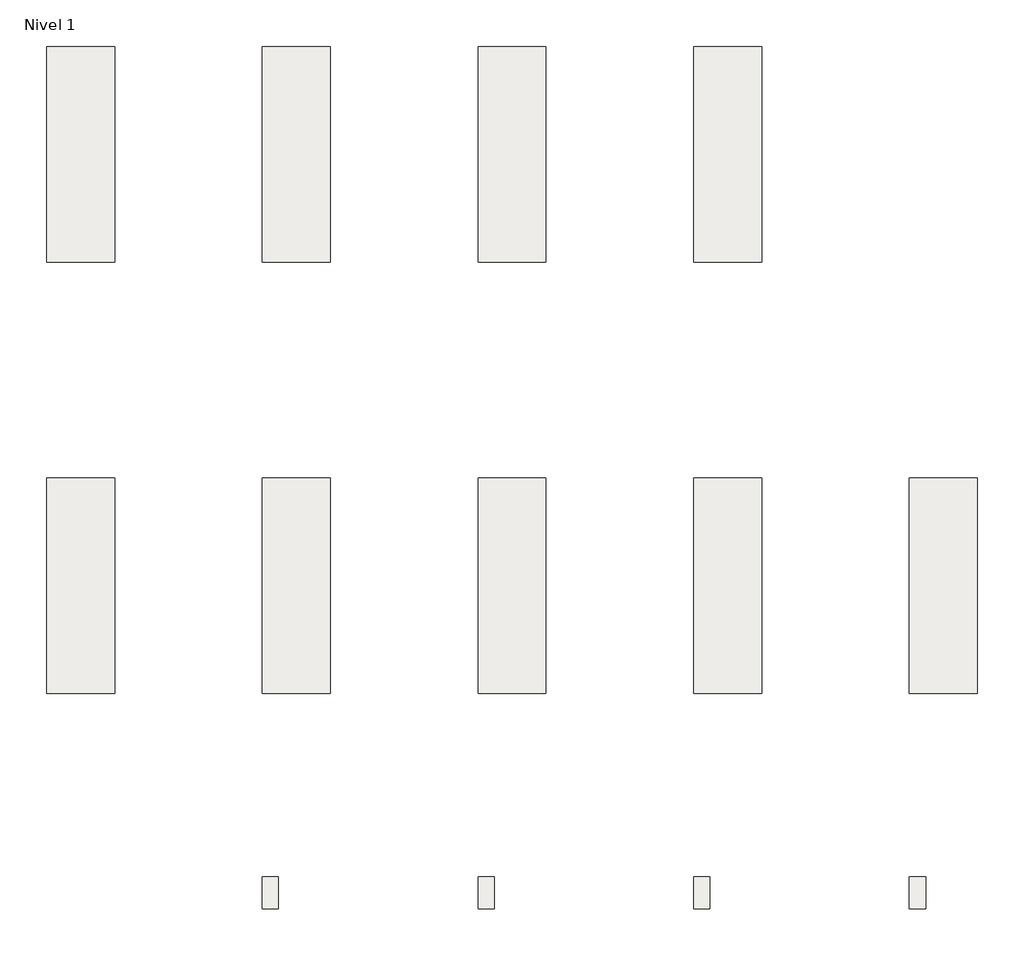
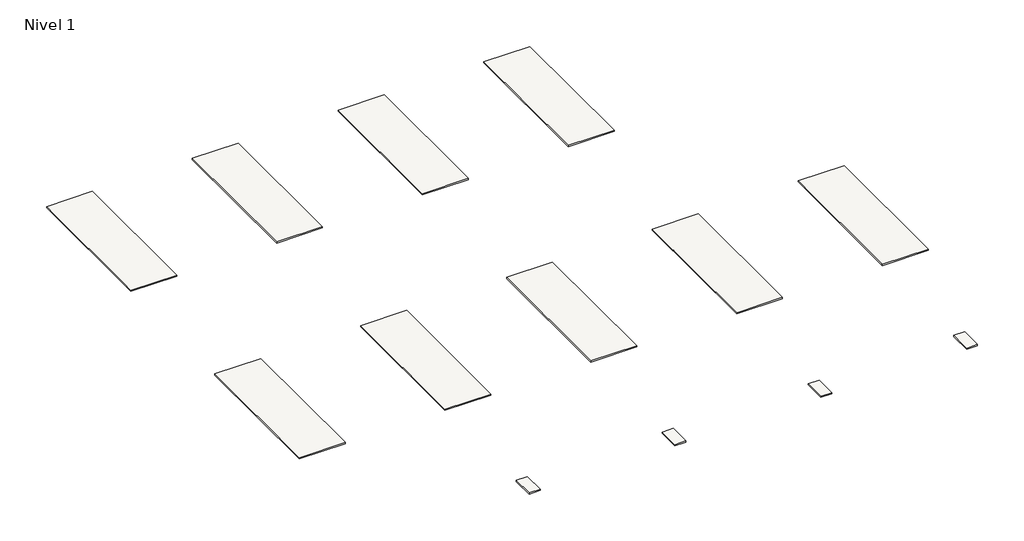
# One storey: 13 slabs.
"""IFC4 building model written with IfcOpenShell, lengths in millimetres."""

from ifc_helpers import new_model, si_unit, frame, origin, place, context, project, spatial, polyline, outline, extrude, element, save

model = new_model("IFC4")

# Units and contexts
model_context = context("Model", 3, world=origin())
ifc_project = project(units=[si_unit("LENGTHUNIT", "METRE", prefix="MILLI")], contexts=[model_context])

# Site, building, storey
site = spatial("IfcSite", under=ifc_project)
building = spatial("IfcBuilding", under=site)
storey = spatial("IfcBuildingStorey", under=building, Name="Nivel 1", Elevation=0.0)

# Slabs
placement = place(None, origin())
element("IfcSlab", 1, ObjectType="Vetro Moka Rec.", at=placement, inside=storey, context=model_context, shape_type="SweptSolid", body=[
    extrude(outline(polyline([(0.0, 1000.0), (315.0, 1000.0), (315.0, 0.0), (0.0, 0.0), (0.0, 1000.0)])), frame((0.0, 0.0, -8.7), z_axis=(0.0, 0.0, 1.0), x_axis=(1.0, 0.0, 0.0)), (0.0, 0.0, 1.0), 8.7),
])
element("IfcSlab", 2, ObjectType="Vetro Humo Rec.", at=placement, inside=storey, context=model_context, shape_type="SweptSolid", body=[
    extrude(outline(polyline([(1000.0, 1000.0), (1315.0, 1000.0), (1315.0, 0.0), (1000.0, 0.0), (1000.0, 1000.0)])), frame((0.0, 0.0, -8.7), z_axis=(0.0, 0.0, 1.0), x_axis=(1.0, 0.0, 0.0)), (0.0, 0.0, 1.0), 8.7),
])
element("IfcSlab", 3, ObjectType="Vetro Zafiro Rec.", at=placement, inside=storey, context=model_context, shape_type="SweptSolid", body=[
    extrude(outline(polyline([(2000.0, 1000.0), (2315.0, 1000.0), (2315.0, 0.0), (2000.0, 0.0), (2000.0, 1000.0)])), frame((0.0, 0.0, -8.7), z_axis=(0.0, 0.0, 1.0), x_axis=(1.0, 0.0, 0.0)), (0.0, 0.0, 1.0), 8.7),
])
element("IfcSlab", 4, ObjectType="Vetro Acido Rec.", at=placement, inside=storey, context=model_context, shape_type="SweptSolid", body=[
    extrude(outline(polyline([(3000.0, 1000.0), (3315.0, 1000.0), (3315.0, 0.0), (3000.0, 0.0), (3000.0, 1000.0)])), frame((0.0, 0.0, -8.7), z_axis=(0.0, 0.0, 1.0), x_axis=(1.0, 0.0, 0.0)), (0.0, 0.0, 1.0), 8.7),
])
element("IfcSlab", 5, ObjectType="Lente Moka Rec.", at=placement, inside=storey, context=model_context, shape_type="SweptSolid", body=[
    extrude(outline(polyline([(0.0, -1000.0), (315.0, -1000.0), (315.0, -2000.0), (0.0, -2000.0), (0.0, -1000.0)])), frame((0.0, 0.0, -8.7), z_axis=(0.0, 0.0, 1.0), x_axis=(1.0, 0.0, 0.0)), (0.0, 0.0, 1.0), 8.7),
])
element("IfcSlab", 6, ObjectType="Lente Humo Rec.", at=placement, inside=storey, context=model_context, shape_type="SweptSolid", body=[
    extrude(outline(polyline([(1000.0, -1000.0), (1315.0, -1000.0), (1315.0, -2000.0), (1000.0, -2000.0), (1000.0, -1000.0)])), frame((0.0, 0.0, -8.7), z_axis=(0.0, 0.0, 1.0), x_axis=(1.0, 0.0, 0.0)), (0.0, 0.0, 1.0), 8.7),
])
element("IfcSlab", 7, ObjectType="Lente Blanco Rec.", at=placement, inside=storey, context=model_context, shape_type="SweptSolid", body=[
    extrude(outline(polyline([(4000.0, -1000.0), (4315.0, -1000.0), (4315.0, -2000.0), (4000.0, -2000.0), (4000.0, -1000.0)])), frame((0.0, 0.0, -8.7), z_axis=(0.0, 0.0, 1.0), x_axis=(1.0, 0.0, 0.0)), (0.0, 0.0, 1.0), 8.7),
])
element("IfcSlab", 8, ObjectType="Lente Zafiro Rec.", at=placement, inside=storey, context=model_context, shape_type="SweptSolid", body=[
    extrude(outline(polyline([(2000.0, -1000.0), (2315.0, -1000.0), (2315.0, -2000.0), (2000.0, -2000.0), (2000.0, -1000.0)])), frame((0.0, 0.0, -8.7), z_axis=(0.0, 0.0, 1.0), x_axis=(1.0, 0.0, 0.0)), (0.0, 0.0, 1.0), 8.7),
])
element("IfcSlab", 9, ObjectType="Lente Acido Rec.", at=placement, inside=storey, context=model_context, shape_type="SweptSolid", body=[
    extrude(outline(polyline([(3000.0, -1000.0), (3315.0, -1000.0), (3315.0, -2000.0), (3000.0, -2000.0), (3000.0, -1000.0)])), frame((0.0, 0.0, -8.7), z_axis=(0.0, 0.0, 1.0), x_axis=(1.0, 0.0, 0.0)), (0.0, 0.0, 1.0), 8.7),
])
element("IfcSlab", 10, ObjectType="Reflect Acido", at=placement, inside=storey, context=model_context, shape_type="SweptSolid", body=[
    extrude(outline(polyline([(3000.0, -2850.0), (3075.0, -2850.0), (3075.0, -3000.0), (3000.0, -3000.0), (3000.0, -2850.0)])), frame((0.0, 0.0, -8.7), z_axis=(0.0, 0.0, 1.0), x_axis=(1.0, 0.0, 0.0)), (0.0, 0.0, 1.0), 8.7),
])
element("IfcSlab", 11, ObjectType="Reflect Humo", at=placement, inside=storey, context=model_context, shape_type="SweptSolid", body=[
    extrude(outline(polyline([(1000.0, -2850.0), (1075.0, -2850.0), (1075.0, -3000.0), (1000.0, -3000.0), (1000.0, -2850.0)])), frame((0.0, 0.0, -8.7), z_axis=(0.0, 0.0, 1.0), x_axis=(1.0, 0.0, 0.0)), (0.0, 0.0, 1.0), 8.7),
])
element("IfcSlab", 12, ObjectType="Reflect Zafiro", at=placement, inside=storey, context=model_context, shape_type="SweptSolid", body=[
    extrude(outline(polyline([(2000.0, -2850.0), (2075.0, -2850.0), (2075.0, -3000.0), (2000.0, -3000.0), (2000.0, -2850.0)])), frame((0.0, 0.0, -8.7), z_axis=(0.0, 0.0, 1.0), x_axis=(1.0, 0.0, 0.0)), (0.0, 0.0, 1.0), 8.7),
])
element("IfcSlab", 13, ObjectType="Reflect Negro", at=placement, inside=storey, context=model_context, shape_type="SweptSolid", body=[
    extrude(outline(polyline([(4000.0, -2850.0), (4075.0, -2850.0), (4075.0, -3000.0), (4000.0, -3000.0), (4000.0, -2850.0)])), frame((0.0, 0.0, -8.7), z_axis=(0.0, 0.0, 1.0), x_axis=(1.0, 0.0, 0.0)), (0.0, 0.0, 1.0), 8.7),
])

save(model, "model.ifc")
